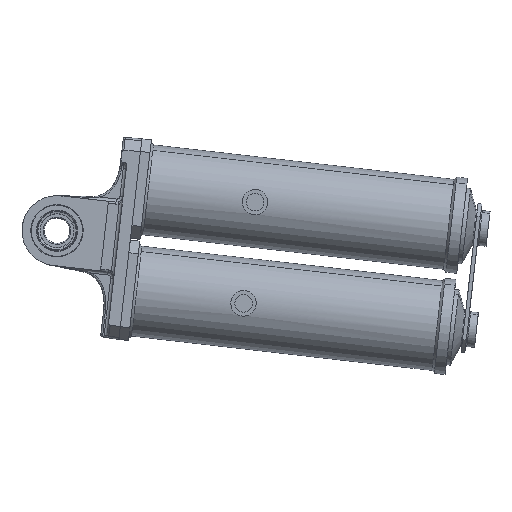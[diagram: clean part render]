
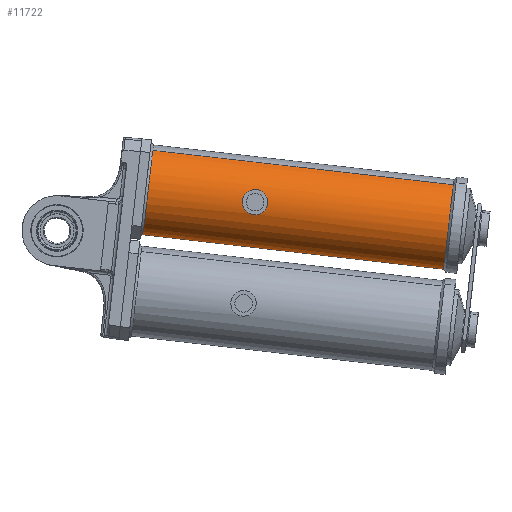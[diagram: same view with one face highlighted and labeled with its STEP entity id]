
A CAD part, front view. The second image highlights one B-rep face of the part: STEP entity #11722.
In plain terms, the highlighted cylindrical face has radius 71 mm (diameter 142 mm), a partial arc.
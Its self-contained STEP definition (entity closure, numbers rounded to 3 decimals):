
#11622=AXIS2_PLACEMENT_3D('Cylinder Axis2P3D',#11619,#11620,#11621) ;
#11626=AXIS2_PLACEMENT_3D('Circle Axis2P3D',#11624,#11625,$) ;
#11642=AXIS2_PLACEMENT_3D('Circle Axis2P3D',#11640,#11641,$) ;
#11619=CARTESIAN_POINT('Axis2P3D Location',(-272.071,-360.,3311.307)) ;
#11624=CARTESIAN_POINT('Axis2P3D Location',(-29.656,-360.,3283.539)) ;
#11628=CARTESIAN_POINT('Vertex',(-22.565,-394.039,3345.443)) ;
#11630=CARTESIAN_POINT('Vertex',(-36.747,-325.961,3221.635)) ;
#11633=CARTESIAN_POINT('Line Origine',(-258.522,-394.039,3372.471)) ;
#11637=CARTESIAN_POINT('Vertex',(-494.479,-394.039,3399.5)) ;
#11640=CARTESIAN_POINT('Axis2P3D Location',(-501.57,-360.,3337.596)) ;
#11644=CARTESIAN_POINT('Vertex',(-508.661,-325.961,3275.693)) ;
#11647=CARTESIAN_POINT('Line Origine',(-272.704,-325.961,3248.664)) ;
#11659=CARTESIAN_POINT('Control Point',(-326.516,-429.014,3300.761)) ;
#11660=CARTESIAN_POINT('Control Point',(-322.75,-429.485,3302.291)) ;
#11661=CARTESIAN_POINT('Control Point',(-319.414,-430.112,3304.821)) ;
#11662=CARTESIAN_POINT('Control Point',(-316.82,-430.706,3308.193)) ;
#11663=CARTESIAN_POINT('Control Point',(-315.257,-431.,3312.136)) ;
#11664=CARTESIAN_POINT('Control Point',(-314.791,-431.,3316.201)) ;
#11665=CARTESIAN_POINT('Vertex',(-326.516,-429.014,3300.761)) ;
#11667=CARTESIAN_POINT('Vertex',(-314.791,-431.,3316.201)) ;
#11671=CARTESIAN_POINT('Control Point',(-326.516,-429.014,3300.761)) ;
#11672=CARTESIAN_POINT('Control Point',(-328.079,-428.819,3300.126)) ;
#11673=CARTESIAN_POINT('Control Point',(-329.717,-428.65,3299.663)) ;
#11674=CARTESIAN_POINT('Control Point',(-331.403,-428.522,3299.384)) ;
#11675=CARTESIAN_POINT('Control Point',(-334.942,-428.36,3299.201)) ;
#11676=CARTESIAN_POINT('Control Point',(-338.436,-428.424,3299.835)) ;
#11677=CARTESIAN_POINT('Control Point',(-340.193,-428.52,3300.379)) ;
#11678=CARTESIAN_POINT('Control Point',(-343.97,-428.858,3302.068)) ;
#11679=CARTESIAN_POINT('Control Point',(-347.162,-429.392,3304.696)) ;
#11680=CARTESIAN_POINT('Control Point',(-348.705,-429.721,3306.415)) ;
#11681=CARTESIAN_POINT('Control Point',(-351.112,-430.325,3310.08)) ;
#11682=CARTESIAN_POINT('Control Point',(-352.399,-430.771,3314.283)) ;
#11683=CARTESIAN_POINT('Control Point',(-352.735,-430.924,3316.359)) ;
#11684=CARTESIAN_POINT('Control Point',(-352.781,-431.,3318.458)) ;
#11685=CARTESIAN_POINT('Control Point',(-352.544,-431.,3320.526)) ;
#11686=CARTESIAN_POINT('Vertex',(-352.544,-431.,3320.526)) ;
#11690=CARTESIAN_POINT('Control Point',(-340.82,-429.014,3335.966)) ;
#11691=CARTESIAN_POINT('Control Point',(-344.586,-429.485,3334.436)) ;
#11692=CARTESIAN_POINT('Control Point',(-347.922,-430.112,3331.906)) ;
#11693=CARTESIAN_POINT('Control Point',(-350.515,-430.706,3328.534)) ;
#11694=CARTESIAN_POINT('Control Point',(-352.079,-431.,3324.591)) ;
#11695=CARTESIAN_POINT('Control Point',(-352.544,-431.,3320.526)) ;
#11696=CARTESIAN_POINT('Vertex',(-340.82,-429.014,3335.966)) ;
#11700=CARTESIAN_POINT('Control Point',(-340.82,-429.014,3335.966)) ;
#11701=CARTESIAN_POINT('Control Point',(-339.256,-428.819,3336.601)) ;
#11702=CARTESIAN_POINT('Control Point',(-337.619,-428.65,3337.064)) ;
#11703=CARTESIAN_POINT('Control Point',(-335.933,-428.522,3337.343)) ;
#11704=CARTESIAN_POINT('Control Point',(-332.393,-428.36,3337.525)) ;
#11705=CARTESIAN_POINT('Control Point',(-328.9,-428.424,3336.892)) ;
#11706=CARTESIAN_POINT('Control Point',(-327.142,-428.52,3336.348)) ;
#11707=CARTESIAN_POINT('Control Point',(-323.366,-428.858,3334.658)) ;
#11708=CARTESIAN_POINT('Control Point',(-320.174,-429.392,3332.031)) ;
#11709=CARTESIAN_POINT('Control Point',(-318.631,-429.721,3330.312)) ;
#11710=CARTESIAN_POINT('Control Point',(-316.223,-430.325,3326.647)) ;
#11711=CARTESIAN_POINT('Control Point',(-314.936,-430.771,3322.444)) ;
#11712=CARTESIAN_POINT('Control Point',(-314.601,-430.924,3320.368)) ;
#11713=CARTESIAN_POINT('Control Point',(-314.555,-431.,3318.268)) ;
#11714=CARTESIAN_POINT('Control Point',(-314.791,-431.,3316.201)) ;
#11620=DIRECTION('Axis2P3D Direction',(0.994,0.,-0.114)) ;
#11621=DIRECTION('Axis2P3D XDirection',(0.1,-0.479,0.872)) ;
#11625=DIRECTION('Axis2P3D Direction',(0.994,0.,-0.114)) ;
#11634=DIRECTION('Vector Direction',(0.994,0.,-0.114)) ;
#11641=DIRECTION('Axis2P3D Direction',(0.994,0.,-0.114)) ;
#11648=DIRECTION('Vector Direction',(0.994,0.,-0.114)) ;
#11635=VECTOR('Line Direction',#11634,1.) ;
#11649=VECTOR('Line Direction',#11648,1.) ;
#11653=ORIENTED_EDGE('',*,*,#11632,.F.) ;
#11654=ORIENTED_EDGE('',*,*,#11639,.F.) ;
#11655=ORIENTED_EDGE('',*,*,#11646,.T.) ;
#11656=ORIENTED_EDGE('',*,*,#11651,.T.) ;
#11717=ORIENTED_EDGE('',*,*,#11669,.F.) ;
#11718=ORIENTED_EDGE('',*,*,#11688,.T.) ;
#11719=ORIENTED_EDGE('',*,*,#11698,.F.) ;
#11720=ORIENTED_EDGE('',*,*,#11715,.T.) ;
#11721=FACE_BOUND('',#11716,.T.) ;
#11722=ADVANCED_FACE('UMMC1000DL-02A1-353.2',(#11657,#11721),#11623,.T.) ;
#11658=B_SPLINE_CURVE_WITH_KNOTS('',5,(#11659,#11660,#11661,#11662,#11663,#11664),.UNSPECIFIED.,.F.,.U.,(6,6),(0.,35.435),.UNSPECIFIED.) ;
#11670=B_SPLINE_CURVE_WITH_KNOTS('',5,(#11671,#11672,#11673,#11674,#11675,#11676,#11677,#11678,#11679,#11680,#11681,#11682,#11683,#11684,#11685),.UNSPECIFIED.,.F.,.U.,(6,3,3,3,6),(0.,14.716,30.518,50.407,68.428),.UNSPECIFIED.) ;
#11689=B_SPLINE_CURVE_WITH_KNOTS('',5,(#11690,#11691,#11692,#11693,#11694,#11695),.UNSPECIFIED.,.F.,.U.,(6,6),(0.,35.435),.UNSPECIFIED.) ;
#11699=B_SPLINE_CURVE_WITH_KNOTS('',5,(#11700,#11701,#11702,#11703,#11704,#11705,#11706,#11707,#11708,#11709,#11710,#11711,#11712,#11713,#11714),.UNSPECIFIED.,.F.,.U.,(6,3,3,3,6),(0.,14.716,30.518,50.407,68.428),.UNSPECIFIED.) ;
#11627=CIRCLE('generated circle',#11626,71.) ;
#11643=CIRCLE('generated circle',#11642,71.) ;
#11623=CYLINDRICAL_SURFACE('generated cylinder',#11622,71.) ;
#11632=EDGE_CURVE('',#11629,#11631,#11627,.T.) ;
#11639=EDGE_CURVE('',#11638,#11629,#11636,.T.) ;
#11646=EDGE_CURVE('',#11638,#11645,#11643,.T.) ;
#11651=EDGE_CURVE('',#11645,#11631,#11650,.T.) ;
#11669=EDGE_CURVE('',#11666,#11668,#11658,.T.) ;
#11688=EDGE_CURVE('',#11666,#11687,#11670,.T.) ;
#11698=EDGE_CURVE('',#11697,#11687,#11689,.T.) ;
#11715=EDGE_CURVE('',#11697,#11668,#11699,.T.) ;
#11652=EDGE_LOOP('',(#11653,#11654,#11655,#11656)) ;
#11716=EDGE_LOOP('',(#11717,#11718,#11719,#11720)) ;
#11657=FACE_OUTER_BOUND('',#11652,.T.) ;
#11636=LINE('Line',#11633,#11635) ;
#11650=LINE('Line',#11647,#11649) ;
#11629=VERTEX_POINT('',#11628) ;
#11631=VERTEX_POINT('',#11630) ;
#11638=VERTEX_POINT('',#11637) ;
#11645=VERTEX_POINT('',#11644) ;
#11666=VERTEX_POINT('',#11665) ;
#11668=VERTEX_POINT('',#11667) ;
#11687=VERTEX_POINT('',#11686) ;
#11697=VERTEX_POINT('',#11696) ;
